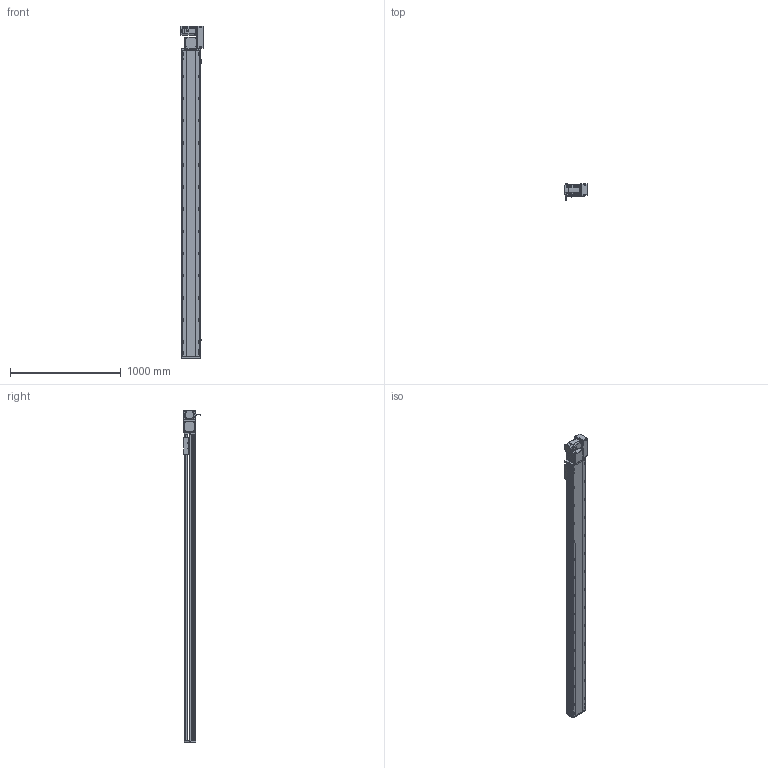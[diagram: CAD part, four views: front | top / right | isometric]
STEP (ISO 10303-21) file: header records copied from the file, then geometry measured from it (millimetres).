
FILE_DESCRIPTION (( 'STEP AP214' ), '1' );
FILE_NAME ('RTB17S-XX-2500-R-M75-C4.STEP', '2025-12-12T01:47:20', ( '' ), ( '' ), 'SwSTEP 2.0', 'SolidWorks 2018', '' );
FILE_SCHEMA (( 'AUTOMOTIVE_DESIGN' ));
Length unit declared in the file: millimetre
Products named in the file (15): 750W萇儂^RTB17S-XX-XX-R-M75-C4; RTB17S-L-014-T20-P75--々湍釱^RTB17S-R-々湍釱蚾饜-750W_RTB17S-XX-XX-R-M75-C4; RTB17-R-011菁釱^RTB17S-XX-XX-R-M75-C4; RTH13-BL-012覜茼え俋离^RTB17S-賑釱_RTB17S-XX-XX-R-M75-C4; RTB17S-L-007奻裔^RTB17S-XX-XX-R-M75-C4; EE672^RTB17S-XX-XX-R-M75-C4; RTB17S-XX-2500-R-M75-C4; RTB22S-GY-017P^RTB17S-R-々湍釱蚾饜-750W_RTB17S-XX-XX-R-M75-C4; RTB22S-GY-008-M75--萇儂啣^RTB17S-R-々湍釱蚾饜-750W_RTB17S-XX-XX-R-M75-C4; RTB17S-賑釱^RTB17S-XX-XX-R-M75-C4; RTB17S-L-001-耜醱啣^RTB17S-XX-XX-R-M75-C4; RTB22S-GY-018P^RTB17S-R-々湍釱蚾饜-750W_RTB17S-XX-XX-R-M75-C4; RTB17S-R-々湍釱蚾饜-750W^RTB17S-XX-XX-R-M75-C4; RTB17S-L-004-賑釱^RTB17S-賑釱_RTB17S-XX-XX-R-M75-C4; RTB22S-GY-005P^RTB17S-R-々湍釱蚾饜-750W_RTB17S-XX-XX-R-M75-C4
Assembly tree (17 placements, depth 3):
  RTB17S-XX-2500-R-M75-C4
    RTB17-R-011菁釱^RTB17S-XX-XX-R-M75-C4
    EE672^RTB17S-XX-XX-R-M75-C4  x3
    RTB17S-L-001-耜醱啣^RTB17S-XX-XX-R-M75-C4
    RTB17S-賑釱^RTB17S-XX-XX-R-M75-C4
      RTB17S-L-004-賑釱^RTB17S-賑釱_RTB17S-XX-XX-R-M75-C4
      RTH13-BL-012覜茼え俋离^RTB17S-賑釱_RTB17S-XX-XX-R-M75-C4
    RTB17S-L-007奻裔^RTB17S-XX-XX-R-M75-C4
    750W萇儂^RTB17S-XX-XX-R-M75-C4
    RTB17S-R-々湍釱蚾饜-750W^RTB17S-XX-XX-R-M75-C4
      RTB17S-L-014-T20-P75--々湍釱^RTB17S-R-々湍釱蚾饜-750W_RTB17S-XX-XX-R-M75-C4
      RTB22S-GY-005P^RTB17S-R-々湍釱蚾饜-750W_RTB17S-XX-XX-R-M75-C4
      RTB22S-GY-017P^RTB17S-R-々湍釱蚾饜-750W_RTB17S-XX-XX-R-M75-C4  x2
      RTB22S-GY-008-M75--萇儂啣^RTB17S-R-々湍釱蚾饜-750W_RTB17S-XX-XX-R-M75-C4
      RTB22S-GY-018P^RTB17S-R-々湍釱蚾饜-750W_RTB17S-XX-XX-R-M75-C4
Bounding box: 207.4 x 152.7 x 2999 mm (x, y, z)
Volume: 21575256.2 mm3; surface area: 3914312.2 mm2
Topology: 17 solids, 17 shells, 2217 faces, 6214 edges, 4022 vertices
Faces by surface type: plane 986, cylinder 815, bspline 294, cone 110, sphere 8, torus 4
Entity records: 64246 total; most frequent: CARTESIAN_POINT 19078, ORIENTED_EDGE 9272, DIRECTION 8582, EDGE_CURVE 4636, AXIS2_PLACEMENT_3D 3042, VERTEX_POINT 3026, LINE 2498, VECTOR 2498
